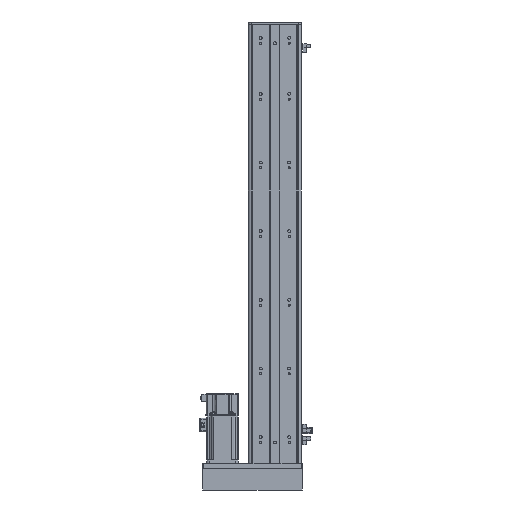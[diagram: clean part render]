
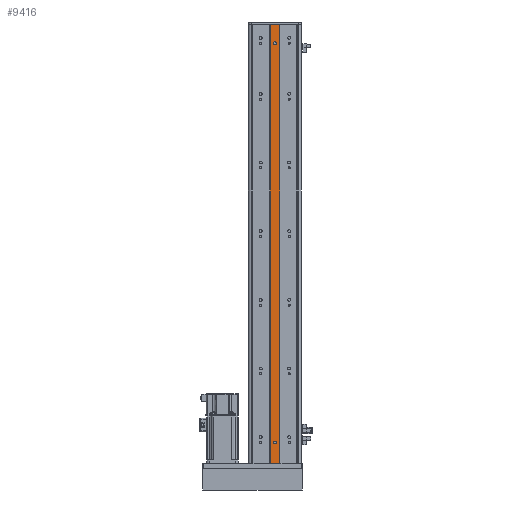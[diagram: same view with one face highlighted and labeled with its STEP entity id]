
A CAD part, front view. The second image highlights one B-rep face of the part: STEP entity #9416.
In plain terms, the highlighted planar face has unit normal (0, -1, 0).
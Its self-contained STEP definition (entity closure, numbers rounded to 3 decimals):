
#1295 = CIRCLE ( 'NONE', #10124, 2.5 ) ;
#1353 = LINE ( 'NONE', #48156, #38374 ) ;
#1436 = LINE ( 'NONE', #18052, #46835 ) ;
#2230 = DIRECTION ( 'NONE',  ( 0., 1., 0. ) ) ;
#2353 = VERTEX_POINT ( 'NONE', #20740 ) ;
#2444 = LINE ( 'NONE', #15836, #52021 ) ;
#2641 = CARTESIAN_POINT ( 'NONE',  ( -9., 1.309, 961. ) ) ;
#5009 = CARTESIAN_POINT ( 'NONE',  ( -2.5, 1.309, 961. ) ) ;
#5432 = DIRECTION ( 'NONE',  ( 0., 0., 1. ) ) ;
#6669 = CARTESIAN_POINT ( 'NONE',  ( 9., 1.309, 130. ) ) ;
#7705 = DIRECTION ( 'NONE',  ( 0., 0., 1. ) ) ;
#7820 = VECTOR ( 'NONE', #65573, 1000. ) ;
#8143 = VERTEX_POINT ( 'NONE', #65361 ) ;
#9416 = ADVANCED_FACE ( 'NONE', ( #26898, #25227, #32769 ), #30753, .F. ) ;
#10124 = AXIS2_PLACEMENT_3D ( 'NONE', #46203, #2230, #45491 ) ;
#10753 = VERTEX_POINT ( 'NONE', #46239 ) ;
#11005 = CARTESIAN_POINT ( 'NONE',  ( 2.5, 1.309, 961. ) ) ;
#11565 = CARTESIAN_POINT ( 'NONE',  ( -2.5, 1.309, 926.5 ) ) ;
#12420 = CIRCLE ( 'NONE', #35896, 2.5 ) ;
#12456 = CARTESIAN_POINT ( 'NONE',  ( 9., 1.309, 961. ) ) ;
#12907 = LINE ( 'NONE', #5009, #57515 ) ;
#13230 = CARTESIAN_POINT ( 'NONE',  ( 0., 1.309, 926.5 ) ) ;
#14244 = DIRECTION ( 'NONE',  ( 0., 0., 1. ) ) ;
#14695 = DIRECTION ( 'NONE',  ( 0., 1., 0. ) ) ;
#15836 = CARTESIAN_POINT ( 'NONE',  ( -9., 1.309, 961. ) ) ;
#16031 = EDGE_CURVE ( 'NONE', #17524, #52386, #12907, .T. ) ;
#17524 = VERTEX_POINT ( 'NONE', #61958 ) ;
#17561 = VERTEX_POINT ( 'NONE', #62205 ) ;
#17806 = DIRECTION ( 'NONE',  ( -1., 0., 0. ) ) ;
#18052 = CARTESIAN_POINT ( 'NONE',  ( 0., 1.309, 130. ) ) ;
#18639 = DIRECTION ( 'NONE',  ( 0., 1., 0. ) ) ;
#19828 = CARTESIAN_POINT ( 'NONE',  ( 2.5, 1.309, 925.5 ) ) ;
#20740 = CARTESIAN_POINT ( 'NONE',  ( 2.5, 1.309, 170. ) ) ;
#20848 = VERTEX_POINT ( 'NONE', #6669 ) ;
#21606 = ORIENTED_EDGE ( 'NONE', *, *, #44774, .T. ) ;
#21681 = CIRCLE ( 'NONE', #25204, 2.5 ) ;
#23223 = ORIENTED_EDGE ( 'NONE', *, *, #66343, .T. ) ;
#23282 = DIRECTION ( 'NONE',  ( 0., 0., -1. ) ) ;
#24523 = AXIS2_PLACEMENT_3D ( 'NONE', #35921, #14695, #14244 ) ;
#25204 = AXIS2_PLACEMENT_3D ( 'NONE', #44631, #55429, #7705 ) ;
#25227 = FACE_BOUND ( 'NONE', #47970, .T. ) ;
#26898 = FACE_BOUND ( 'NONE', #50926, .T. ) ;
#28023 = CARTESIAN_POINT ( 'NONE',  ( 0., 1.309, 170. ) ) ;
#28148 = VERTEX_POINT ( 'NONE', #19828 ) ;
#29578 = EDGE_CURVE ( 'NONE', #17561, #2353, #12420, .T. ) ;
#29966 = EDGE_LOOP ( 'NONE', ( #66813, #38616, #53835, #23223 ) ) ;
#30753 = PLANE ( 'NONE',  #24523 ) ;
#31891 = DIRECTION ( 'NONE',  ( 1., 0., 0. ) ) ;
#32254 = EDGE_CURVE ( 'NONE', #28148, #17524, #21681, .T. ) ;
#32769 = FACE_OUTER_BOUND ( 'NONE', #29966, .T. ) ;
#34372 = AXIS2_PLACEMENT_3D ( 'NONE', #13230, #18639, #46394 ) ;
#35896 = AXIS2_PLACEMENT_3D ( 'NONE', #28023, #54999, #43756 ) ;
#35921 = CARTESIAN_POINT ( 'NONE',  ( 0., 1.309, 961. ) ) ;
#35950 = ORIENTED_EDGE ( 'NONE', *, *, #16031, .T. ) ;
#36269 = VERTEX_POINT ( 'NONE', #42080 ) ;
#38331 = EDGE_CURVE ( 'NONE', #2353, #17561, #1295, .T. ) ;
#38374 = VECTOR ( 'NONE', #69820, 1000. ) ;
#38616 = ORIENTED_EDGE ( 'NONE', *, *, #69797, .F. ) ;
#38794 = CIRCLE ( 'NONE', #34372, 2.5 ) ;
#40424 = ORIENTED_EDGE ( 'NONE', *, *, #60678, .T. ) ;
#41430 = LINE ( 'NONE', #12456, #54027 ) ;
#42080 = CARTESIAN_POINT ( 'NONE',  ( 2.5, 1.309, 926.5 ) ) ;
#43756 = DIRECTION ( 'NONE',  ( 0., 0., 1. ) ) ;
#44631 = CARTESIAN_POINT ( 'NONE',  ( 0., 1.309, 925.5 ) ) ;
#44774 = EDGE_CURVE ( 'NONE', #36269, #28148, #69259, .T. ) ;
#45491 = DIRECTION ( 'NONE',  ( 0., 0., 1. ) ) ;
#46203 = CARTESIAN_POINT ( 'NONE',  ( 0., 1.309, 170. ) ) ;
#46239 = CARTESIAN_POINT ( 'NONE',  ( 9., 1.309, 961. ) ) ;
#46394 = DIRECTION ( 'NONE',  ( 0., 0., 1. ) ) ;
#46835 = VECTOR ( 'NONE', #17806, 1000. ) ;
#47970 = EDGE_LOOP ( 'NONE', ( #60078, #62137 ) ) ;
#48156 = CARTESIAN_POINT ( 'NONE',  ( -9., 1.309, 961. ) ) ;
#48224 = EDGE_CURVE ( 'NONE', #20848, #8143, #1436, .T. ) ;
#50926 = EDGE_LOOP ( 'NONE', ( #35950, #40424, #21606, #68674 ) ) ;
#52021 = VECTOR ( 'NONE', #31891, 1000. ) ;
#52386 = VERTEX_POINT ( 'NONE', #11565 ) ;
#53835 = ORIENTED_EDGE ( 'NONE', *, *, #64383, .F. ) ;
#54027 = VECTOR ( 'NONE', #23282, 1000. ) ;
#54999 = DIRECTION ( 'NONE',  ( 0., 1., 0. ) ) ;
#55429 = DIRECTION ( 'NONE',  ( 0., 1., 0. ) ) ;
#57515 = VECTOR ( 'NONE', #5432, 1000. ) ;
#60078 = ORIENTED_EDGE ( 'NONE', *, *, #38331, .T. ) ;
#60678 = EDGE_CURVE ( 'NONE', #52386, #36269, #38794, .T. ) ;
#61958 = CARTESIAN_POINT ( 'NONE',  ( -2.5, 1.309, 925.5 ) ) ;
#62137 = ORIENTED_EDGE ( 'NONE', *, *, #29578, .T. ) ;
#62205 = CARTESIAN_POINT ( 'NONE',  ( -2.5, 1.309, 170. ) ) ;
#64383 = EDGE_CURVE ( 'NONE', #64684, #10753, #2444, .T. ) ;
#64684 = VERTEX_POINT ( 'NONE', #2641 ) ;
#65361 = CARTESIAN_POINT ( 'NONE',  ( -9., 1.309, 130. ) ) ;
#65573 = DIRECTION ( 'NONE',  ( 0., 0., -1. ) ) ;
#66343 = EDGE_CURVE ( 'NONE', #64684, #8143, #1353, .T. ) ;
#66813 = ORIENTED_EDGE ( 'NONE', *, *, #48224, .F. ) ;
#68674 = ORIENTED_EDGE ( 'NONE', *, *, #32254, .T. ) ;
#69259 = LINE ( 'NONE', #11005, #7820 ) ;
#69797 = EDGE_CURVE ( 'NONE', #10753, #20848, #41430, .T. ) ;
#69820 = DIRECTION ( 'NONE',  ( 0., 0., -1. ) ) ;
